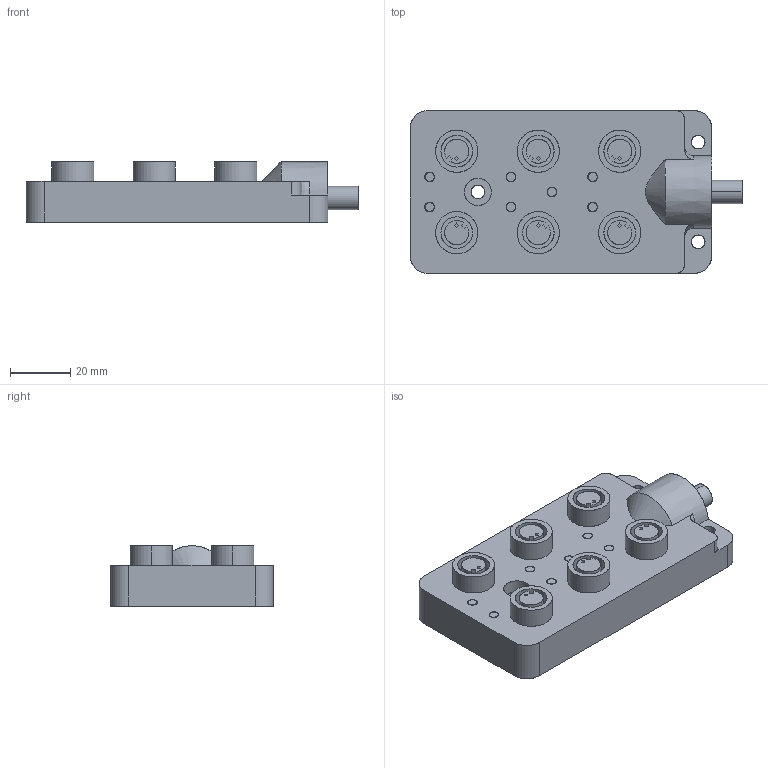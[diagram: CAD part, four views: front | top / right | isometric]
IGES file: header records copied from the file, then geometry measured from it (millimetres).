
Start section: OSMC1.0    IGES FILE using analytic representation for surfaces
Global section: file name: C:\OMRON\IGES\XW3B_P652_G11.igs; native system: SolidWorks 2001Plus by SolidWorks Corporation; preprocessor: Version 5.3; author: takumi; date: 060914.231908; units: millimetre
Bounding box: 110 x 54 x 20 mm (x, y, z)
Surface area: 20305 mm2 (no closed solid volume)
Topology: 0 solids, 0 shells, 202 faces, 3459 edges, 3459 vertices
Faces by surface type: bspline 112, revolution 90
